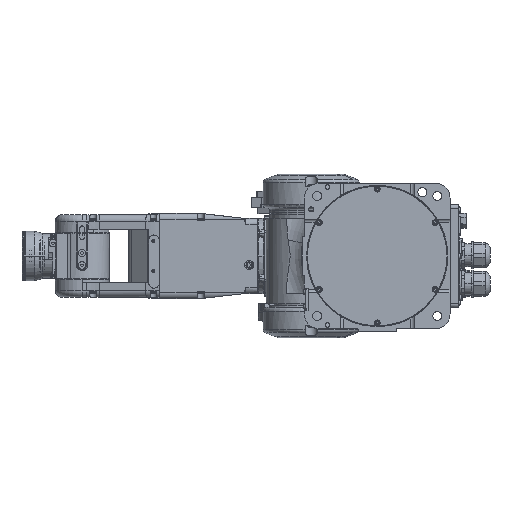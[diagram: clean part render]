
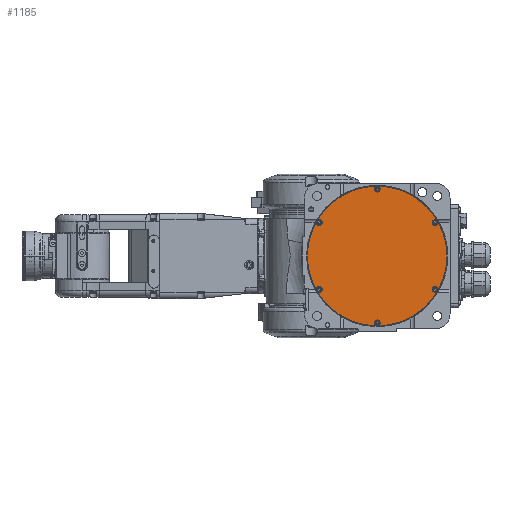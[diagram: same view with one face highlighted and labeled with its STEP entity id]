
A CAD part, front view. The second image highlights one B-rep face of the part: STEP entity #1185.
In plain terms, the highlighted planar face has unit normal (0, -1, 0).
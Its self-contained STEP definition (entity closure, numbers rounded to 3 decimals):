
#1185 = ADVANCED_FACE( '', ( #5418, #5419, #5420, #5421, #5422, #5423, #5424 ), #5425, .T. );
#5418 = FACE_BOUND( '', #12402, .T. );
#5419 = FACE_BOUND( '', #12403, .T. );
#5420 = FACE_BOUND( '', #12404, .T. );
#5421 = FACE_BOUND( '', #12405, .T. );
#5422 = FACE_BOUND( '', #12406, .T. );
#5423 = FACE_BOUND( '', #12407, .T. );
#5424 = FACE_OUTER_BOUND( '', #12408, .T. );
#5425 = PLANE( '', #12409 );
#12402 = EDGE_LOOP( '', ( #24161, #24162 ) );
#12403 = EDGE_LOOP( '', ( #24163, #24164 ) );
#12404 = EDGE_LOOP( '', ( #24165, #24166 ) );
#12405 = EDGE_LOOP( '', ( #24167, #24168 ) );
#12406 = EDGE_LOOP( '', ( #24169, #24170 ) );
#12407 = EDGE_LOOP( '', ( #24171, #24172 ) );
#12408 = EDGE_LOOP( '', ( #24173, #24174 ) );
#12409 = AXIS2_PLACEMENT_3D( '', #24175, #24176, #24177 );
#24161 = ORIENTED_EDGE( '', *, *, #44463, .T. );
#24162 = ORIENTED_EDGE( '', *, *, #46462, .T. );
#24163 = ORIENTED_EDGE( '', *, *, #44453, .T. );
#24164 = ORIENTED_EDGE( '', *, *, #46465, .T. );
#24165 = ORIENTED_EDGE( '', *, *, #44444, .T. );
#24166 = ORIENTED_EDGE( '', *, *, #46469, .T. );
#24167 = ORIENTED_EDGE( '', *, *, #44435, .T. );
#24168 = ORIENTED_EDGE( '', *, *, #46473, .T. );
#24169 = ORIENTED_EDGE( '', *, *, #44426, .T. );
#24170 = ORIENTED_EDGE( '', *, *, #46475, .T. );
#24171 = ORIENTED_EDGE( '', *, *, #44418, .T. );
#24172 = ORIENTED_EDGE( '', *, *, #46477, .T. );
#24173 = ORIENTED_EDGE( '', *, *, #44537, .F. );
#24174 = ORIENTED_EDGE( '', *, *, #46152, .F. );
#24175 = CARTESIAN_POINT( '', ( 46.5, 3.4, 0. ) );
#24176 = DIRECTION( '', ( 0., -1., 0. ) );
#24177 = DIRECTION( '', ( -1., 0., 0. ) );
#44418 = EDGE_CURVE( '', #52872, #52876, #52878, .T. );
#44426 = EDGE_CURVE( '', #52886, #52890, #52892, .T. );
#44435 = EDGE_CURVE( '', #52900, #52906, #52908, .T. );
#44444 = EDGE_CURVE( '', #52917, #52923, #52925, .T. );
#44453 = EDGE_CURVE( '', #52934, #52940, #52942, .T. );
#44463 = EDGE_CURVE( '', #52953, #52959, #52961, .T. );
#44537 = EDGE_CURVE( '', #53095, #53098, #53099, .T. );
#46152 = EDGE_CURVE( '', #53098, #53095, #55768, .T. );
#46462 = EDGE_CURVE( '', #52959, #52953, #56268, .T. );
#46465 = EDGE_CURVE( '', #52940, #52934, #56271, .T. );
#46469 = EDGE_CURVE( '', #52923, #52917, #56276, .T. );
#46473 = EDGE_CURVE( '', #52906, #52900, #56281, .T. );
#46475 = EDGE_CURVE( '', #52890, #52886, #56283, .T. );
#46477 = EDGE_CURVE( '', #52876, #52872, #56285, .T. );
#52872 = VERTEX_POINT( '', #66877 );
#52876 = VERTEX_POINT( '', #66882 );
#52878 = CIRCLE( '', #66885, 3.8 );
#52886 = VERTEX_POINT( '', #66893 );
#52890 = VERTEX_POINT( '', #66898 );
#52892 = CIRCLE( '', #66901, 3.8 );
#52900 = VERTEX_POINT( '', #66909 );
#52906 = VERTEX_POINT( '', #66916 );
#52908 = CIRCLE( '', #66919, 3.8 );
#52917 = VERTEX_POINT( '', #66928 );
#52923 = VERTEX_POINT( '', #66935 );
#52925 = CIRCLE( '', #66938, 3.8 );
#52934 = VERTEX_POINT( '', #66947 );
#52940 = VERTEX_POINT( '', #66954 );
#52942 = CIRCLE( '', #66957, 3.8 );
#52953 = VERTEX_POINT( '', #66968 );
#52959 = VERTEX_POINT( '', #66975 );
#52961 = CIRCLE( '', #66978, 3.8 );
#53095 = VERTEX_POINT( '', #67206 );
#53098 = VERTEX_POINT( '', #67210 );
#53099 = CIRCLE( '', #67211, 93. );
#55768 = CIRCLE( '', #71748, 93. );
#56268 = CIRCLE( '', #72674, 3.8 );
#56271 = CIRCLE( '', #72677, 3.8 );
#56276 = CIRCLE( '', #72682, 3.8 );
#56281 = CIRCLE( '', #72687, 3.8 );
#56283 = CIRCLE( '', #72689, 3.8 );
#56285 = CIRCLE( '', #72691, 3.8 );
#66877 = CARTESIAN_POINT( '', ( 0., 3.4, -92.8 ) );
#66882 = CARTESIAN_POINT( '', ( 0., 3.4, -85.2 ) );
#66885 = AXIS2_PLACEMENT_3D( '', #93223, #93224, #93225 );
#66893 = CARTESIAN_POINT( '', ( 0., 3.4, 85.2 ) );
#66898 = CARTESIAN_POINT( '', ( 0., 3.4, 92.8 ) );
#66901 = AXIS2_PLACEMENT_3D( '', #93243, #93244, #93245 );
#66909 = CARTESIAN_POINT( '', ( -80.367, 3.4, -46.4 ) );
#66916 = CARTESIAN_POINT( '', ( -73.785, 3.4, -42.6 ) );
#66919 = AXIS2_PLACEMENT_3D( '', #93266, #93267, #93268 );
#66928 = CARTESIAN_POINT( '', ( 73.785, 3.4, 42.6 ) );
#66935 = CARTESIAN_POINT( '', ( 80.367, 3.4, 46.4 ) );
#66938 = AXIS2_PLACEMENT_3D( '', #93289, #93290, #93291 );
#66947 = CARTESIAN_POINT( '', ( 80.367, 3.4, -46.4 ) );
#66954 = CARTESIAN_POINT( '', ( 73.785, 3.4, -42.6 ) );
#66957 = AXIS2_PLACEMENT_3D( '', #93312, #93313, #93314 );
#66968 = CARTESIAN_POINT( '', ( -73.785, 3.4, 42.6 ) );
#66975 = CARTESIAN_POINT( '', ( -80.367, 3.4, 46.4 ) );
#66978 = AXIS2_PLACEMENT_3D( '', #93338, #93339, #93340 );
#67206 = CARTESIAN_POINT( '', ( 93., 3.4, 0. ) );
#67210 = CARTESIAN_POINT( '', ( -93., 3.4, 0. ) );
#67211 = AXIS2_PLACEMENT_3D( '', #93499, #93500, #93501 );
#71748 = AXIS2_PLACEMENT_3D( '', #96170, #96171, #96172 );
#72674 = AXIS2_PLACEMENT_3D( '', #96579, #96580, #96581 );
#72677 = AXIS2_PLACEMENT_3D( '', #96588, #96589, #96590 );
#72682 = AXIS2_PLACEMENT_3D( '', #96600, #96601, #96602 );
#72687 = AXIS2_PLACEMENT_3D( '', #96612, #96613, #96614 );
#72689 = AXIS2_PLACEMENT_3D( '', #96618, #96619, #96620 );
#72691 = AXIS2_PLACEMENT_3D( '', #96624, #96625, #96626 );
#93223 = CARTESIAN_POINT( '', ( 0., 3.4, -89. ) );
#93224 = DIRECTION( '', ( 0., 1., 0. ) );
#93225 = DIRECTION( '', ( 0., 0., -1. ) );
#93243 = CARTESIAN_POINT( '', ( 0., 3.4, 89. ) );
#93244 = DIRECTION( '', ( 0., 1., 0. ) );
#93245 = DIRECTION( '', ( 0., 0., -1. ) );
#93266 = CARTESIAN_POINT( '', ( -77.076, 3.4, -44.5 ) );
#93267 = DIRECTION( '', ( 0., 1., 0. ) );
#93268 = DIRECTION( '', ( -0.866, 0., -0.5 ) );
#93289 = CARTESIAN_POINT( '', ( 77.076, 3.4, 44.5 ) );
#93290 = DIRECTION( '', ( 0., 1., 0. ) );
#93291 = DIRECTION( '', ( -0.866, 0., -0.5 ) );
#93312 = CARTESIAN_POINT( '', ( 77.076, 3.4, -44.5 ) );
#93313 = DIRECTION( '', ( 0., 1., 0. ) );
#93314 = DIRECTION( '', ( 0.866, 0., -0.5 ) );
#93338 = CARTESIAN_POINT( '', ( -77.076, 3.4, 44.5 ) );
#93339 = DIRECTION( '', ( 0., 1., 0. ) );
#93340 = DIRECTION( '', ( 0.866, 0., -0.5 ) );
#93499 = CARTESIAN_POINT( '', ( 0., 3.4, 0. ) );
#93500 = DIRECTION( '', ( 0., 1., 0. ) );
#93501 = DIRECTION( '', ( 1., 0., 0. ) );
#96170 = CARTESIAN_POINT( '', ( 0., 3.4, 0. ) );
#96171 = DIRECTION( '', ( 0., 1., 0. ) );
#96172 = DIRECTION( '', ( 1., 0., 0. ) );
#96579 = CARTESIAN_POINT( '', ( -77.076, 3.4, 44.5 ) );
#96580 = DIRECTION( '', ( 0., 1., 0. ) );
#96581 = DIRECTION( '', ( 0.866, 0., -0.5 ) );
#96588 = CARTESIAN_POINT( '', ( 77.076, 3.4, -44.5 ) );
#96589 = DIRECTION( '', ( 0., 1., 0. ) );
#96590 = DIRECTION( '', ( 0.866, 0., -0.5 ) );
#96600 = CARTESIAN_POINT( '', ( 77.076, 3.4, 44.5 ) );
#96601 = DIRECTION( '', ( 0., 1., 0. ) );
#96602 = DIRECTION( '', ( -0.866, 0., -0.5 ) );
#96612 = CARTESIAN_POINT( '', ( -77.076, 3.4, -44.5 ) );
#96613 = DIRECTION( '', ( 0., 1., 0. ) );
#96614 = DIRECTION( '', ( -0.866, 0., -0.5 ) );
#96618 = CARTESIAN_POINT( '', ( 0., 3.4, 89. ) );
#96619 = DIRECTION( '', ( 0., 1., 0. ) );
#96620 = DIRECTION( '', ( 0., 0., -1. ) );
#96624 = CARTESIAN_POINT( '', ( 0., 3.4, -89. ) );
#96625 = DIRECTION( '', ( 0., 1., 0. ) );
#96626 = DIRECTION( '', ( 0., 0., -1. ) );
